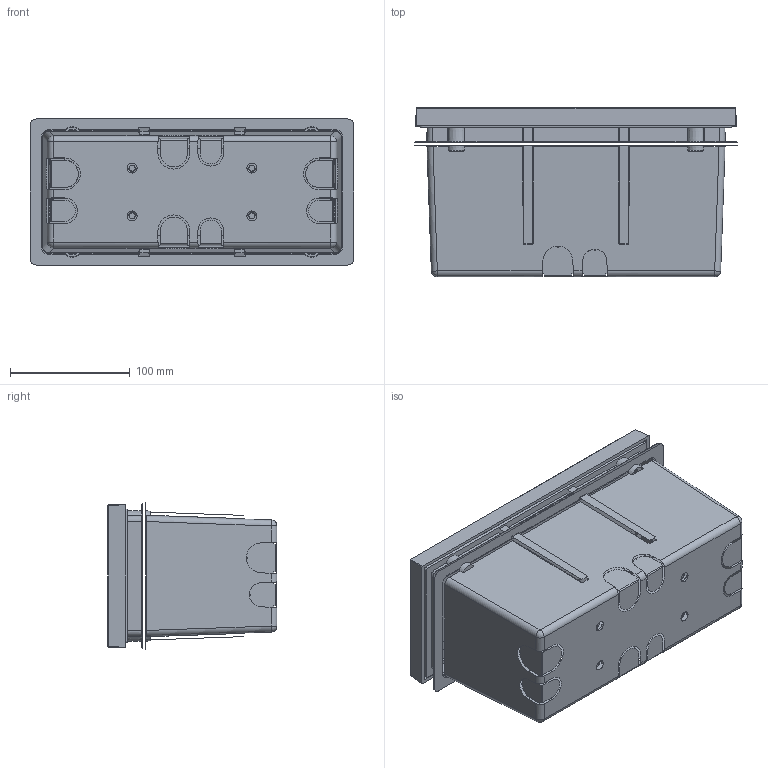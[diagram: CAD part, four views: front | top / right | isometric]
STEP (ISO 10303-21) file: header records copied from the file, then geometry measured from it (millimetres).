
FILE_DESCRIPTION((''),'2;1');
FILE_NAME('ASSIEME-G23-SIMMETRIC_SW0001','2025-07-24T12:15:52',('Piccioli'),(''),'CREO PARAMETRIC BY PTC INC, 2025010','CREO PARAMETRIC BY PTC INC, 2025010','');
FILE_SCHEMA(('CONFIG_CONTROL_DESIGN'));
Length unit declared in the file: millimetre
Products named in the file (1): ASSIEME-G23-SIMMETRIC_SW0001
Bounding box: 270 x 141.7 x 122 mm (x, y, z)
Surface area: 178171.7 mm2 (no closed solid volume)
Topology: 0 solids, 86 shells, 222 faces, 3162 edges, 3006 vertices
Faces by surface type: plane 148, cylinder 36, cone 22, torus 8, sphere 4, bspline 4
Entity records: 30452 total; most frequent: CARTESIAN_POINT 9869, DIRECTION 3594, ORIENTED_EDGE 3366, EDGE_CURVE 3162, VERTEX_POINT 3006, VECTOR 2790, LINE 2790, AXIS2_PLACEMENT_3D 402
